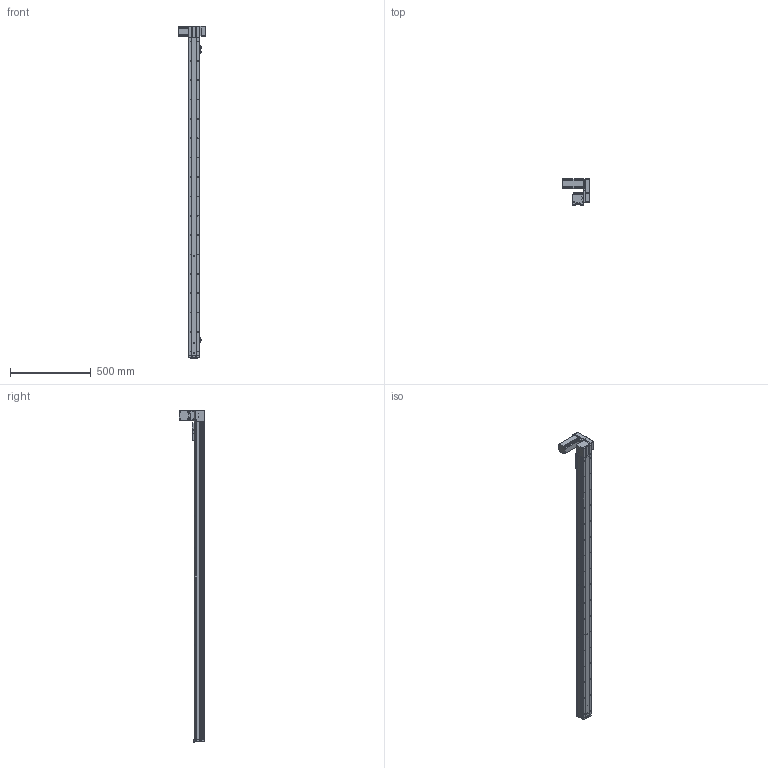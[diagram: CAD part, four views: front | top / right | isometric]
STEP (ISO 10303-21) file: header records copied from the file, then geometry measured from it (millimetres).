
FILE_DESCRIPTION (( 'STEP AP214' ), '1' );
FILE_NAME ('KSD68BS-S1800-MLU-CR.STEP', '2019-08-27T08:52:58', ( '微软用户' ), ( '微软中国' ), 'SwSTEP 2.0', 'SolidWorks 2014', '' );
FILE_SCHEMA (( 'AUTOMOTIVE_DESIGN' ));
Length unit declared in the file: millimetre
Products named in the file (14): 68遵裔啣揤啣1; 68宽单导轨全封闭丝杆传动安装板1防护罩; KSD68BS 1800行程侧板全封闭; 68宽单导轨全封闭同步带端板; 68单导轨全封闭同步带电机座左; 68单导轨全封闭同步带安装板; 悵誘欶奻狟殏; KSD68BS 1800行程盖板全封闭; 68宽马达安装板连板上折同步带; 感应片68宽全封闭; U倰嫖萇EEㄜSX672; 台达ECMA－C20604AS伺服电机（400W); KSD68BS 1800行程底板全封闭; KSD68BS-S1800-MLU-CR
Assembly tree (17 placements, depth 2):
  KSD68BS-S1800-MLU-CR
    KSD68BS 1800行程底板全封闭
    台达ECMA－C20604AS伺服电机（400W)
    U倰嫖萇EEㄜSX672  x3
    感应片68宽全封闭
    68宽马达安装板连板上折同步带
    悵誘欶奻狟殏
    68单导轨全封闭同步带安装板
    68单导轨全封闭同步带电机座左
    68宽单导轨全封闭同步带端板
    KSD68BS 1800行程侧板全封闭  x2
    68宽单导轨全封闭丝杆传动安装板1防护罩
    68遵裔啣揤啣1  x2
    KSD68BS 1800行程盖板全封闭
Bounding box: 167.2 x 159.5 x 2058.1 mm (x, y, z)
Volume: 3618247.5 mm3; surface area: 1477474.8 mm2
Topology: 18 solids, 18 shells, 1573 faces, 4539 edges, 2884 vertices
Faces by surface type: cylinder 748, plane 629, cone 196
Entity records: 50823 total; most frequent: CARTESIAN_POINT 9051, DIRECTION 7554, ORIENTED_EDGE 7274, EDGE_CURVE 3637, AXIS2_PLACEMENT_3D 2735, VERTEX_POINT 2382, VECTOR 2084, LINE 2084
